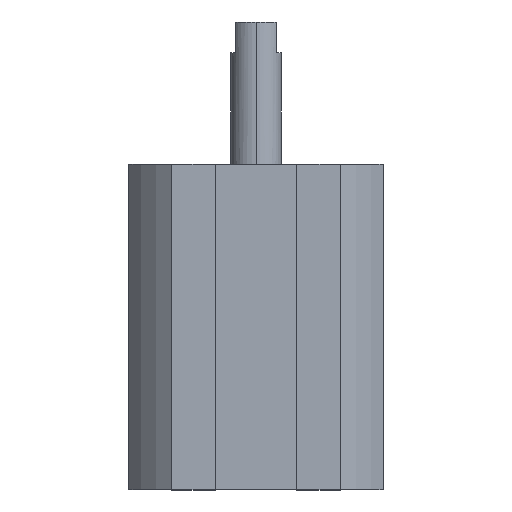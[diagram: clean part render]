
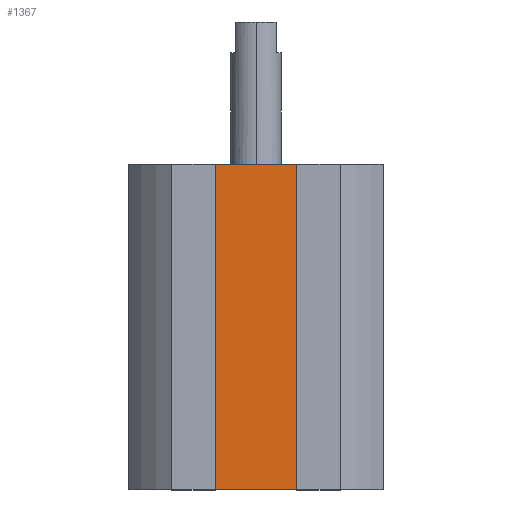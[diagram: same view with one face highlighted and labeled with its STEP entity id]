
A CAD part, top view. The second image highlights one B-rep face of the part: STEP entity #1367.
In plain terms, the highlighted planar face has unit normal (0, 0, 1).
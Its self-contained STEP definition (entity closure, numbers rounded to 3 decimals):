
#82 = ORIENTED_EDGE ( 'NONE', *, *, #1328, .T. ) ;
#121 = AXIS2_PLACEMENT_3D ( 'NONE', #862, #1238, #2095 ) ;
#202 = EDGE_CURVE ( 'NONE', #641, #1747, #1721, .T. ) ;
#263 = EDGE_CURVE ( 'NONE', #641, #373, #431, .T. ) ;
#373 = VERTEX_POINT ( 'NONE', #1106 ) ;
#397 = DIRECTION ( 'NONE',  ( 1., 0., 0. ) ) ;
#431 = LINE ( 'NONE', #547, #2040 ) ;
#432 = DIRECTION ( 'NONE',  ( 1., 0., 0. ) ) ;
#539 = CARTESIAN_POINT ( 'NONE',  ( 4., -32., 7.8 ) ) ;
#547 = CARTESIAN_POINT ( 'NONE',  ( 0., -32., 7.8 ) ) ;
#607 = CARTESIAN_POINT ( 'NONE',  ( 0., 0., 7.8 ) ) ;
#641 = VERTEX_POINT ( 'NONE', #2117 ) ;
#679 = VECTOR ( 'NONE', #432, 1000. ) ;
#737 = VECTOR ( 'NONE', #897, 1000. ) ;
#862 = CARTESIAN_POINT ( 'NONE',  ( 0., -32., 7.8 ) ) ;
#897 = DIRECTION ( 'NONE',  ( 0., 1., 0. ) ) ;
#1001 = FACE_OUTER_BOUND ( 'NONE', #1561, .T. ) ;
#1084 = CARTESIAN_POINT ( 'NONE',  ( -4., -32., 7.8 ) ) ;
#1106 = CARTESIAN_POINT ( 'NONE',  ( 4., -32., 7.8 ) ) ;
#1190 = CARTESIAN_POINT ( 'NONE',  ( -4., 0., 7.8 ) ) ;
#1217 = DIRECTION ( 'NONE',  ( 0., 1., 0. ) ) ;
#1238 = DIRECTION ( 'NONE',  ( 0., 0., 1. ) ) ;
#1252 = ORIENTED_EDGE ( 'NONE', *, *, #1418, .F. ) ;
#1328 = EDGE_CURVE ( 'NONE', #373, #1677, #1511, .T. ) ;
#1367 = ADVANCED_FACE ( 'NONE', ( #1001 ), #1716, .T. ) ;
#1375 = CARTESIAN_POINT ( 'NONE',  ( 4., 0., 7.8 ) ) ;
#1418 = EDGE_CURVE ( 'NONE', #1747, #1677, #2041, .T. ) ;
#1511 = LINE ( 'NONE', #539, #1528 ) ;
#1528 = VECTOR ( 'NONE', #1217, 1000. ) ;
#1561 = EDGE_LOOP ( 'NONE', ( #1252, #1975, #1769, #82 ) ) ;
#1677 = VERTEX_POINT ( 'NONE', #1375 ) ;
#1716 = PLANE ( 'NONE',  #121 ) ;
#1721 = LINE ( 'NONE', #1084, #737 ) ;
#1747 = VERTEX_POINT ( 'NONE', #1190 ) ;
#1769 = ORIENTED_EDGE ( 'NONE', *, *, #263, .T. ) ;
#1975 = ORIENTED_EDGE ( 'NONE', *, *, #202, .F. ) ;
#2040 = VECTOR ( 'NONE', #397, 1000. ) ;
#2041 = LINE ( 'NONE', #607, #679 ) ;
#2095 = DIRECTION ( 'NONE',  ( 1., 0., 0. ) ) ;
#2117 = CARTESIAN_POINT ( 'NONE',  ( -4., -32., 7.8 ) ) ;
